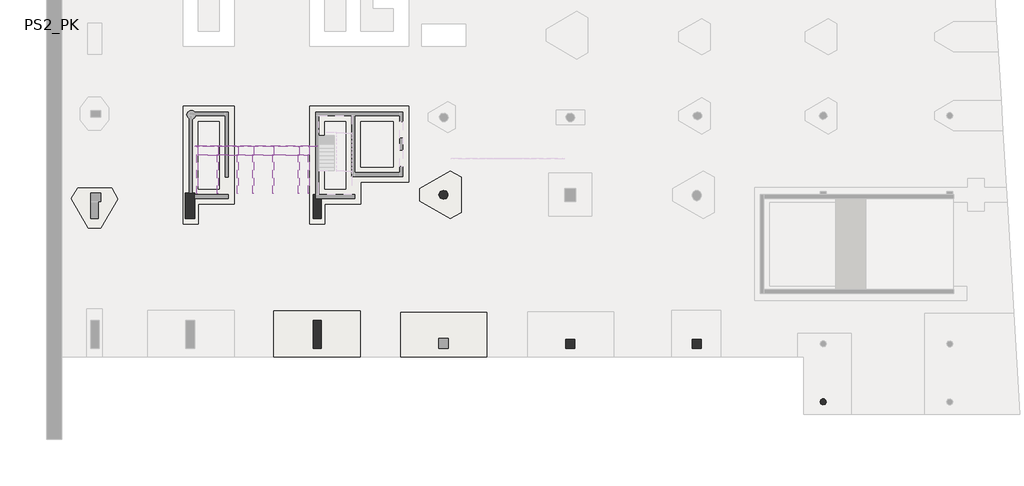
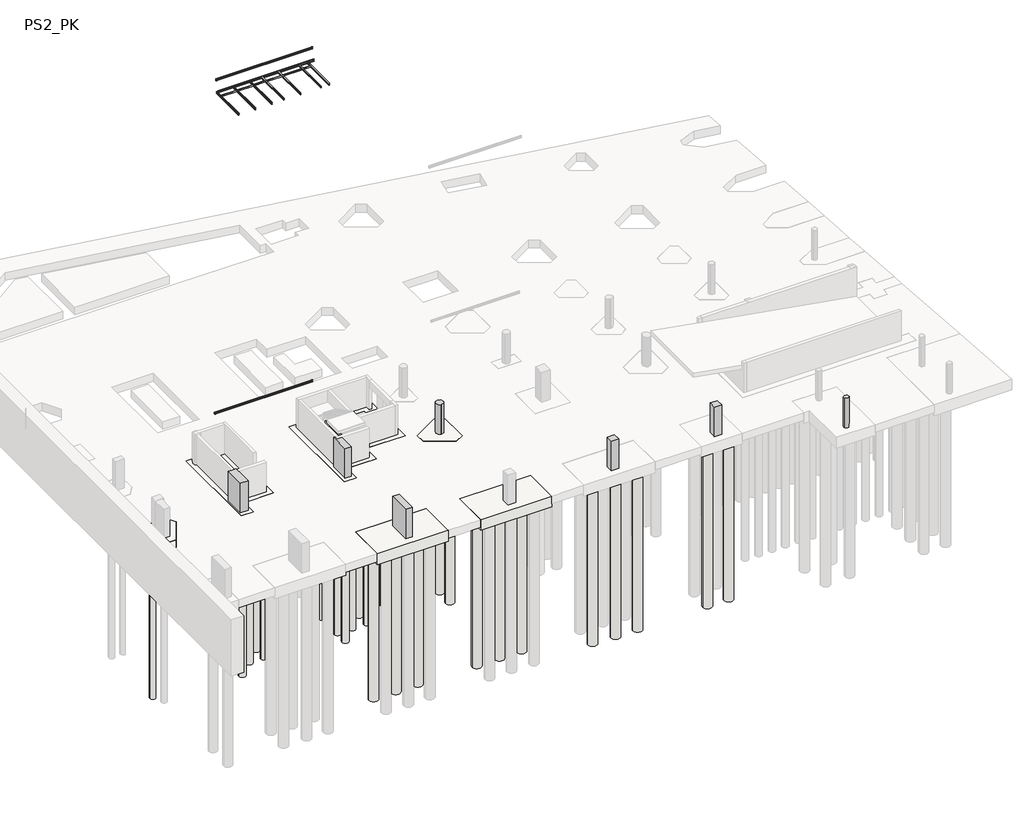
# One storey, part 3 of 10: 46 slabs, 16 beams, 7 columns.
"""IFC4 building model written with IfcOpenShell, lengths in millimetres."""

from ifc_helpers import new_model, si_unit, point, frame, frame_2d, origin, place, context, project, spatial, polyline, circle_curve, trimmed, segment, composite_curve, outline, extrude, faceted_brep, transform, mapped, element, save
from components import ub_universal_beams_ipe_160x82_b193801a, ub_universal_beams_ipe_160x82_a08825f7, upn120x55_69f0bca1, upn120x55_efc8f615, upn120x55_2e91fe93, upn120x55_dd576345, upn120x55_d7d90911, upn200x75_ea87a1d8, upn200x75_7de89c9f, upn200x75_2a7df19b, columna_seccomp_circ_columna_seccomp_circ_700x750_0b81ce58

model = new_model("IFC4")

# Units and contexts
model_context = context("Model", 3, world=origin())
ifc_project = project(units=[si_unit("LENGTHUNIT", "METRE", prefix="MILLI")], contexts=[model_context])

# Site, building, storey
site = spatial("IfcSite", under=ifc_project)
building = spatial("IfcBuilding", under=site)
storey = spatial("IfcBuildingStorey", under=building, Name="PS2_PK", Elevation=-1600.0)

# Beams
placement = place(None, origin())
ub_universal_beams_ipe_160x82_shape = ub_universal_beams_ipe_160x82_b193801a(model_context)
element("IfcBeam", 1, ObjectType="UB-Universal Beams : IPE 160x82", at=placement, inside=storey, context=model_context, shape_type="MappedRepresentation", body=[
    mapped(ub_universal_beams_ipe_160x82_shape, transform((-14190.4459331, -2917.4428253, 37780.0), x_axis=(0.0, 1.0, 0.0), y_axis=(-1.0, 0.0, 0.0), z_axis=(0.0, 0.0, 1.0))),
])
element("IfcBeam", 2, ObjectType="UB-Universal Beams : IPE 160x82", at=placement, inside=storey, context=model_context, shape_type="MappedRepresentation", body=[
    mapped(ub_universal_beams_ipe_160x82_shape, transform((-14990.4459326, -2917.4428127, 37780.0), x_axis=(0.0, 1.0, 0.0), y_axis=(-1.0, 0.0, 0.0), z_axis=(0.0, 0.0, 1.0))),
])
element("IfcBeam", 3, ObjectType="UB-Universal Beams : IPE 160x82", at=placement, inside=storey, context=model_context, shape_type="MappedRepresentation", body=[
    mapped(ub_universal_beams_ipe_160x82_shape, transform((-16990.4459316, -2917.442781, 37780.0), x_axis=(0.0, 1.0, 0.0), y_axis=(-1.0, 0.0, 0.0), z_axis=(0.0, 0.0, 1.0))),
])
element("IfcBeam", 4, ObjectType="UB-Universal Beams : IPE 160x82", at=placement, inside=storey, context=model_context, shape_type="MappedRepresentation", body=[
    mapped(ub_universal_beams_ipe_160x82_shape, transform((-18590.4459308, -2917.4427556, 37780.0), x_axis=(0.0, 1.0, 0.0), y_axis=(-1.0, 0.0, 0.0), z_axis=(0.0, 0.0, 1.0))),
])
element("IfcBeam", 5, ObjectType="UB-Universal Beams : IPE 160x82", at=placement, inside=storey, context=model_context, shape_type="MappedRepresentation", body=[
    mapped(ub_universal_beams_ipe_160x82_shape, transform((-19790.4459314, -2917.4427366, 37780.0), x_axis=(0.0, 1.0, 0.0), y_axis=(-1.0, 0.0, 0.0), z_axis=(0.0, 0.0, 1.0))),
])
element("IfcBeam", 6, ObjectType="UB-Universal Beams : IPE 160x82", at=placement, inside=storey, context=model_context, shape_type="MappedRepresentation", body=[
    mapped(ub_universal_beams_ipe_160x82_shape, transform((-21390.4459306, -2917.4427112, 37780.0), x_axis=(0.0, 1.0, 0.0), y_axis=(-1.0, 0.0, 0.0), z_axis=(0.0, 0.0, 1.0))),
])
ub_universal_beams_ipe_160x82_2_shape = ub_universal_beams_ipe_160x82_a08825f7(model_context)
element("IfcBeam", 7, ObjectType="UB-Universal Beams : IPE 160x82", at=placement, inside=storey, context=model_context, shape_type="MappedRepresentation", body=[
    mapped(ub_universal_beams_ipe_160x82_2_shape, transform((-22991.1860553, -2917.4426858, 37780.0), x_axis=(0.0, 1.0, 0.0), y_axis=(-1.0, 0.0, 0.0), z_axis=(0.0, 0.0, 1.0))),
])
upn120x55_shape = upn120x55_69f0bca1(model_context)
element("IfcBeam", 8, ObjectType="M_MC Shapes : UPN120x55", at=placement, inside=storey, context=model_context, shape_type="MappedRepresentation", body=[
    mapped(upn120x55_shape, transform((-14590.4459328, -1772.1875003, 37800.0), x_axis=(0.9999999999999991, -4.319868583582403e-08, 0.0), y_axis=(4.319868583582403e-08, 0.9999999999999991, 0.0), z_axis=(0.0, 0.0, 1.0))),
])
upn120x55_2_shape = upn120x55_efc8f615(model_context)
element("IfcBeam", 9, ObjectType="M_MC Shapes : UPN120x55", at=placement, inside=storey, context=model_context, shape_type="MappedRepresentation", body=[
    mapped(upn120x55_2_shape, transform((-15990.4459321, -1772.1874398, 37800.0), x_axis=(0.9999999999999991, -4.319868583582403e-08, 0.0), y_axis=(4.319868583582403e-08, 0.9999999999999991, 0.0), z_axis=(0.0, 0.0, 1.0))),
])
upn120x55_3_shape = upn120x55_2e91fe93(model_context)
element("IfcBeam", 10, ObjectType="M_MC Shapes : UPN120x55", at=placement, inside=storey, context=model_context, shape_type="MappedRepresentation", body=[
    mapped(upn120x55_3_shape, transform((-20590.445931, -1772.1872411, 37800.0), x_axis=(0.9999999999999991, -4.319868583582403e-08, 0.0), y_axis=(4.319868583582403e-08, 0.9999999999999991, 0.0), z_axis=(0.0, 0.0, 1.0))),
])
element("IfcBeam", 11, ObjectType="M_MC Shapes : UPN120x55", at=placement, inside=storey, context=model_context, shape_type="MappedRepresentation", body=[
    mapped(upn120x55_3_shape, transform((-17790.4459312, -1772.1873621, 37800.0), x_axis=(0.9999999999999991, -4.319868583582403e-08, 0.0), y_axis=(4.319868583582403e-08, 0.9999999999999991, 0.0), z_axis=(0.0, 0.0, 1.0))),
])
upn120x55_4_shape = upn120x55_dd576345(model_context)
element("IfcBeam", 12, ObjectType="M_MC Shapes : UPN120x55", at=placement, inside=storey, context=model_context, shape_type="MappedRepresentation", body=[
    mapped(upn120x55_4_shape, transform((-19190.4459311, -1772.1873016, 37800.0), x_axis=(0.9999999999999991, -4.319868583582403e-08, 0.0), y_axis=(4.319868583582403e-08, 0.9999999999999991, 0.0), z_axis=(0.0, 0.0, 1.0))),
])
upn120x55_5_shape = upn120x55_d7d90911(model_context)
element("IfcBeam", 13, ObjectType="M_MC Shapes : UPN120x55", at=placement, inside=storey, context=model_context, shape_type="MappedRepresentation", body=[
    mapped(upn120x55_5_shape, transform((-22165.4459321, -1772.1871731, 37800.0), x_axis=(0.9999999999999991, -4.319868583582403e-08, 0.0), y_axis=(4.319868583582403e-08, 0.9999999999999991, 0.0), z_axis=(0.0, 0.0, 1.0))),
])
upn200x75_shape = upn200x75_ea87a1d8(model_context)
element("IfcBeam", 14, ObjectType="M_MC Shapes : UPN200x75", at=placement, inside=storey, context=model_context, shape_type="MappedRepresentation", body=[
    mapped(upn200x75_shape, transform((-18278.2517898, -1021.487191, 37760.0000416), x_axis=(0.9999999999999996, -3.175673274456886e-08, 0.0), y_axis=(3.175673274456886e-08, 0.9999999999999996, 0.0), z_axis=(0.0, 0.0, 1.0))),
])
upn200x75_2_shape = upn200x75_7de89c9f(model_context)
element("IfcBeam", 15, ObjectType="M_MC Shapes : UPN200x75", at=placement, inside=storey, context=model_context, shape_type="MappedRepresentation", body=[
    mapped(upn200x75_2_shape, transform((-18340.3195815, -1021.487189, 39062.1136491), x_axis=(0.9999999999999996, -3.175673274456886e-08, 0.0), y_axis=(3.175673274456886e-08, 0.9999999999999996, 0.0), z_axis=(0.0, 0.0, 1.0))),
])
upn200x75_3_shape = upn200x75_2a7df19b(model_context)
element("IfcBeam", 16, ObjectType="M_MC Shapes : UPN200x75", at=placement, inside=storey, context=model_context, shape_type="MappedRepresentation", body=[
    mapped(upn200x75_3_shape, transform((-18340.3195822, -1021.487189, 4879.9998505), x_axis=(0.9999999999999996, -3.17567391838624e-08, 0.0), y_axis=(3.17567391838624e-08, 0.9999999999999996, 0.0), z_axis=(0.0, 0.0, 1.0))),
])

# Columns
element("IfcColumn", 17, ObjectType="Hormigón-Redondo-Pilar : Pilo_Rodo-Formigo-500", at=placement, inside=storey, context=model_context, shape_type="SweptSolid", body=[
    extrude(outline(composite_curve([segment(trimmed(circle_curve(frame_2d((26484.7068935, -21285.1556646)), 250.0), [point((26278.8019525, -21426.9412608))], [point((26690.6118345, -21143.3700685))], False, "CARTESIAN"), True, "CONTINUOUS"), segment(trimmed(circle_curve(frame_2d((26484.7068935, -21285.1556646)), 250.0), [point((26690.6118345, -21143.3700685))], [point((26278.8019525, -21426.9412608))], False, "CARTESIAN"), True, "CONTINUOUS")], self_intersect=False)), frame((0.0, 0.0, -1600.0), z_axis=(0.0, 0.0, 1.0), x_axis=(1.0, 0.0, 0.0)), (0.0, 0.0, 1.0), 3050.0),
])
columna_seccomp_circ_columna_seccomp_circ_700x750_shape = columna_seccomp_circ_columna_seccomp_circ_700x750_0b81ce58(model_context)
element("IfcColumn", 18, ObjectType="Columna_SecComp_Circ : Columna_SecComp_Circ_700x750", at=placement, inside=storey, context=model_context, shape_type="MappedRepresentation", body=[
    mapped(columna_seccomp_circ_columna_seccomp_circ_700x750_shape, transform((-3540.3183527, -4885.1170104, 0.0), x_axis=(1.0, 0.0, 0.0), y_axis=(0.0, 1.0, 0.0), z_axis=(0.0, 0.0, 1.0))),
])
element("IfcColumn", 19, ObjectType="Concrete-Rectangular-Column : Pilar_Rectangular-Formigo-650x2200", at=placement, inside=storey, context=model_context, shape_type="SweptSolid", body=[
    extrude(outline(polyline([(-13190.290494, -14835.0991464), (-13190.2905987, -17035.0991464), (-13840.2905987, -17035.0991155), (-13840.290494, -14835.0991155), (-13190.290494, -14835.0991464)])), frame((0.0, 0.0, -1600.0), z_axis=(0.0, 0.0, 1.0), x_axis=(1.0, 0.0, 0.0)), (0.0, 0.0, 1.0), 3050.0),
])
element("IfcColumn", 20, ObjectType="Concrete-Rectangular-Column : Pilar_Rectangular-Formigo-700x700", at=placement, inside=storey, context=model_context, shape_type="SweptSolid", body=[
    extrude(outline(polyline([(6834.7069067, -16335.0991761), (6834.7068734, -17035.0991761), (6134.7068734, -17035.0991428), (6134.7069067, -16335.0991428), (6834.7069067, -16335.0991761)])), frame((0.0, 0.0, -1600.0), z_axis=(0.0, 0.0, 1.0), x_axis=(1.0, 0.0, 0.0)), (0.0, 0.0, 1.0), 3050.0),
])
element("IfcColumn", 21, ObjectType="Concrete-Rectangular-Column : Pilar_Rectangular-Formigo-750x2050", at=placement, inside=storey, context=model_context, shape_type="Brep", body=[
    faceted_brep([(-23965.3207563, -6785.0911525, -1600.0), (-23965.3181641, -4735.0911525, -1600.0), (-23640.2931065, -4735.0915635, -1600.0), (-23390.2931065, -4735.0918796, -1600.0), (-23215.3181641, -4735.0921009, -1600.0), (-23215.3183538, -4885.1039382, -1600.0), (-23215.3187332, -5185.1039382, -1600.0), (-23215.3207563, -6785.0921009, -1600.0), (-23965.3207563, -6785.0911525, 1450.0), (-23965.3181641, -4735.0911525, 1450.0), (-23640.2931065, -4735.0915635, 1450.0), (-23390.2931065, -4735.0918796, 1450.0), (-23215.3181641, -4735.0921009, 1450.0), (-23215.3183538, -4885.1039382, 1450.0), (-23215.3187332, -5185.1039382, 1450.0), (-23215.3207563, -6785.0921009, 1450.0)], [[[0, 1, 2, 3, 4, 5, 6, 7]], [[8, 9, 1, 0]], [[9, 10, 11, 12, 4, 3, 2, 1]], [[12, 13, 14, 15, 7, 6, 5, 4]], [[15, 8, 0, 7]], [[8, 15, 14, 13, 12, 11, 10, 9]]]),
])
element("IfcColumn", 22, ObjectType="Concrete-Rectangular-Column : Pilar_Rectangular-Formigo-700x700", at=placement, inside=storey, context=model_context, shape_type="SweptSolid", body=[
    extrude(outline(polyline([(16834.6783199, -16335.0991763), (16834.6782866, -17035.0991763), (16134.6782866, -17035.099143), (16134.6783199, -16335.099143), (16834.6783199, -16335.0991763)])), frame((0.0, 0.0, -1600.0), z_axis=(0.0, 0.0, 1.0), x_axis=(1.0, 0.0, 0.0)), (0.0, 0.0, 1.0), 3050.0),
])
element("IfcColumn", 23, ObjectType="Concrete-Rectangular-Column : Pilar_Rectangular-Formigo-600x1900", at=placement, inside=storey, context=model_context, shape_type="SweptSolid", body=[
    extrude(outline(polyline([(-13815.2931093, -6785.0991464), (-13815.2931106, -4885.0991464), (-13640.3216429, -4885.0991463), (-13640.3216429, -5185.1039323), (-13215.2931104, -5185.1039323), (-13215.2931093, -6785.099146), (-13815.2931093, -6785.0991464)])), frame((0.0, 0.0, -1600.0), z_axis=(0.0, 0.0, 1.0), x_axis=(1.0, 0.0, 0.0)), (0.0, 0.0, 1.0), 3050.0),
])

# Slabs
element("IfcSlab", 24, ObjectType="FunCap_Concreto_1100", at=placement, inside=storey, context=model_context, shape_type="Brep", body=[
    faceted_brep([(-6290.3192274, -3885.1123435, -2700.0), (-10065.3141732, -3885.1075686, -2700.0), (-10065.3163867, -5635.107237, -2700.0), (-12915.3225908, -5635.1036314, -2700.0), (-12915.32455, -7185.1036303, -2700.0), (-14115.3245507, -7185.1021144, -2700.0), (-14115.3127876, 2114.8978864, -2700.0), (-6290.3116377, 2114.8879885, -2700.0), (-7490.3131551, 914.889507, -2700.0), (-10065.308102, 914.8927637, -2700.0), (-10065.3126554, -2685.1075693, -2700.0), (-7490.317708, -2685.1108261, -2700.0), (-7490.3153689, -835.1108259, -2700.0), (-11265.3081026, 914.894282, -2700.0), (-12915.3143061, 914.8963689, -2700.0), (-12915.3210721, -4435.1036312, -2700.0), (-11265.3148682, -4435.1057186, -2700.0), (-6290.3192274, -3885.1123435, -1600.0), (-6290.3116377, 2114.8879885, -1600.0), (-14115.3127876, 2114.8978864, -1600.0), (-14115.3245507, -7185.1021144, -1600.0), (-12915.32455, -7185.1036303, -1600.0), (-12915.3225908, -5635.1036314, -1600.0), (-10065.3163867, -5635.107237, -1600.0), (-10065.3141732, -3885.1075686, -1600.0), (-7490.3131551, 914.889507, -1600.0), (-7490.3153689, -835.1108259, -1600.0), (-7490.317708, -2685.1108261, -1600.0), (-10065.3126554, -2685.1075693, -1600.0), (-10065.308102, 914.8927637, -1600.0), (-11265.3081026, 914.894282, -1600.0), (-11265.3148682, -4435.1057186, -1600.0), (-12915.3210721, -4435.1036312, -1600.0), (-12915.3143061, 914.8963689, -1600.0), (-6290.3192274, -3885.1123435, -2400.0), (-10065.3141732, -3885.1075686, -2400.0), (-10065.3163867, -5635.107237, -2400.0), (-12915.3225908, -5635.1036314, -2400.0), (-12915.32455, -7185.1036303, -2400.0), (-14115.3245507, -7185.1021144, -2400.0), (-14115.3127876, 2114.8978864, -2400.0), (-6290.3116377, 2114.8879885, -2400.0), (-7490.3131551, 914.889507, -2400.0), (-10065.308102, 914.8927637, -2400.0), (-10065.3126554, -2685.1075693, -2400.0), (-7490.317708, -2685.1108261, -2400.0), (-11265.3081026, 914.894282, -2400.0), (-12915.3143061, 914.8963689, -2400.0), (-12915.3210721, -4435.1036312, -2400.0), (-11265.3148682, -4435.1057186, -2400.0)], [[[0, 1, 2, 3, 4, 5, 6, 7], [8, 9, 10, 11, 12], [13, 14, 15, 16]], [[17, 18, 19, 20, 21, 22, 23, 24], [25, 26, 27, 28, 29], [30, 31, 32, 33]], [[1, 0, 34, 17, 24, 35]], [[2, 1, 35, 24, 23, 36]], [[3, 2, 36, 23, 22, 37]], [[4, 3, 37, 22, 21, 38]], [[5, 4, 38, 21, 20, 39]], [[6, 5, 39, 20, 19, 40]], [[7, 6, 40, 19, 18, 41]], [[0, 7, 41, 18, 17, 34]], [[9, 8, 42, 25, 29, 43]], [[10, 9, 43, 29, 28, 44]], [[11, 10, 44, 28, 27, 45]], [[12, 11, 45, 27, 26]], [[8, 12, 26, 25, 42]], [[14, 13, 46, 30, 33, 47]], [[15, 14, 47, 33, 32, 48]], [[16, 15, 48, 32, 31, 49]], [[13, 16, 49, 31, 30, 46]]]),
])
element("IfcSlab", 25, ObjectType="FunCap_Concreto_1100", at=placement, inside=storey, context=model_context, shape_type="Brep", body=[
    faceted_brep([(-20065.3225907, -5635.0945878, -2700.0), (-22915.3225913, -5635.0909817, -2700.0), (-22915.3245514, -7185.0909829, -2700.0), (-24115.3245511, -7185.0894656, -2700.0), (-24115.3127885, 2114.9105356, -2700.0), (-20065.3127877, 2114.9054127, -2700.0), (-22915.3210721, -4435.0909815, -2700.0), (-21265.3210736, -4435.0930698, -2700.0), (-21265.3143052, 914.9069298, -2700.0), (-22915.3143051, 914.9090181, -2700.0), (-20065.3225907, -5635.0945878, -1600.0), (-20065.3127877, 2114.9054127, -1600.0), (-24115.3127885, 2114.9105356, -1600.0), (-24115.3245511, -7185.0894656, -1600.0), (-22915.3245514, -7185.0909829, -1600.0), (-22915.3225913, -5635.0909817, -1600.0), (-22915.3210721, -4435.0909815, -1600.0), (-22915.3143051, 914.9090181, -1600.0), (-21265.3143052, 914.9069298, -1600.0), (-21265.3210736, -4435.0930698, -1600.0), (-20065.3225907, -5635.0945878, -2400.0), (-22915.3225913, -5635.0909817, -2400.0), (-22915.3245514, -7185.0909829, -2400.0), (-24115.3245511, -7185.0894656, -2400.0), (-24115.3127885, 2114.9105356, -2400.0), (-20065.3127877, 2114.9054127, -2400.0), (-22915.3210721, -4435.0909815, -2400.0), (-21265.3210736, -4435.0930698, -2400.0), (-21265.3143052, 914.9069298, -2400.0), (-22915.3143051, 914.9090181, -2400.0)], [[[0, 1, 2, 3, 4, 5], [6, 7, 8, 9]], [[10, 11, 12, 13, 14, 15], [16, 17, 18, 19]], [[1, 0, 20, 10, 15, 21]], [[2, 1, 21, 15, 14, 22]], [[3, 2, 22, 14, 13, 23]], [[4, 3, 23, 13, 12, 24]], [[5, 4, 24, 12, 11, 25]], [[0, 5, 25, 11, 10, 20]], [[7, 6, 26, 16, 19, 27]], [[8, 7, 27, 19, 18, 28]], [[9, 8, 28, 18, 17, 29]], [[6, 9, 29, 17, 16, 26]]]),
])
element("IfcSlab", 26, ObjectType="FunCap_Concreto_1100", at=placement, inside=storey, context=model_context, shape_type="Brep", body=[
    faceted_brep([(-30613.5959454, -7518.4971295, -2700.0), (-31617.4416776, -7518.4958606, -2700.0), (-32954.708224, -5195.2234012, -2700.0), (-32445.1659501, -4341.0991851, -2700.0), (-29771.9049698, -4341.102566, -2700.0), (-29275.4616643, -5214.6478853, -2700.0), (-30613.5959454, -7518.4971295, -1600.0), (-29275.4616643, -5214.6478853, -1600.0), (-29771.9049698, -4341.102566, -1600.0), (-32445.1659501, -4341.0991851, -1600.0), (-32954.708224, -5195.2234012, -1600.0), (-31617.4416776, -7518.4958606, -1600.0), (-30613.5959454, -7518.4971295, -2400.0), (-31617.4416776, -7518.4958606, -2400.0), (-32954.708224, -5195.2234012, -2400.0), (-32445.1659501, -4341.0991851, -2400.0), (-29771.9049698, -4341.102566, -2400.0), (-29275.4616643, -5214.6478853, -2400.0)], [[[0, 1, 2, 3, 4, 5]], [[6, 7, 8, 9, 10, 11]], [[1, 0, 12, 6, 11, 13]], [[2, 1, 13, 11, 10, 14]], [[3, 2, 14, 10, 9, 15]], [[4, 3, 15, 9, 8, 16]], [[5, 4, 16, 8, 7, 17]], [[0, 5, 17, 7, 6, 12]]]),
])
element("IfcSlab", 27, ObjectType="FunCap_Concreto_1100", at=placement, inside=storey, context=model_context, shape_type="Brep", body=[
    faceted_brep([(-5413.3612686, -5372.6131205, -2700.0), (-5413.3600354, -4397.6131204, -2700.0), (-2988.4871337, -2997.6161874, -2700.0), (-2144.1129816, -3485.1172552, -2700.0), (-2144.1165238, -6285.117256, -2700.0), (-2988.4919086, -6772.6161877, -2700.0), (-5413.3612686, -5372.6131205, -1600.0), (-2988.4919086, -6772.6161877, -1600.0), (-2144.1165238, -6285.117256, -1600.0), (-2144.1129816, -3485.1172552, -1600.0), (-2988.4871337, -2997.6161874, -1600.0), (-5413.3600354, -4397.6131204, -1600.0), (-5413.3612686, -5372.6131205, -2400.0), (-5413.3600354, -4397.6131204, -2400.0), (-2988.4871337, -2997.6161874, -2400.0), (-2144.1129816, -3485.1172552, -2400.0), (-2144.1165238, -6285.117256, -2400.0), (-2988.4919086, -6772.6161877, -2400.0)], [[[0, 1, 2, 3, 4, 5]], [[6, 7, 8, 9, 10, 11]], [[1, 0, 12, 6, 11, 13]], [[2, 1, 13, 11, 10, 14]], [[3, 2, 14, 10, 9, 15]], [[4, 3, 15, 9, 8, 16]], [[5, 4, 16, 8, 7, 17]], [[0, 5, 17, 7, 6, 12]]]),
])
element("IfcSlab", 28, ObjectType="FunCap_Concreto_1100", at=placement, inside=storey, context=model_context, shape_type="Brep", body=[
    faceted_brep([(-65.3378924, -14176.6706788, -2700.0), (-65.3378924, -17732.9041552, -2700.0), (-6965.3333948, -17732.9041552, -2700.0), (-6965.3333948, -14176.6706788, -2700.0), (-65.3378924, -14176.6706788, -1600.0), (-6965.3333948, -14176.6706788, -1600.0), (-6965.3333948, -17732.7348879, -1600.0), (-6965.3333948, -17732.9041552, -1600.0), (-65.3378924, -17732.9041552, -1600.0), (-65.3378924, -14176.6706788, -2400.0), (-6965.3333948, -14176.6706788, -2400.0)], [[[0, 1, 2, 3]], [[4, 5, 6, 7, 8]], [[1, 0, 9, 4, 8]], [[2, 1, 8, 7]], [[3, 2, 7, 6, 5, 10]], [[0, 3, 10, 5, 4, 9]]]),
])
element("IfcSlab", 29, ObjectType="FunCap_Concreto_1100", at=placement, inside=storey, context=model_context, shape_type="Brep", body=[
    faceted_brep([(-10083.3637576, -14034.840768, -2700.0), (-10083.3637576, -17733.5286548, -2700.0), (-16983.359079, -17733.5286548, -2700.0), (-16983.359079, -14034.840768, -2700.0), (-10083.3637576, -14034.840768, -1600.0), (-16983.359079, -14034.840768, -1600.0), (-16983.359079, -17732.4891306, -1600.0), (-16983.359079, -17733.5286548, -1600.0), (-10083.3637576, -17733.5286548, -1600.0), (-10083.3637576, -17732.6583979, -1600.0), (-10083.3637576, -14034.840768, -2400.0), (-16983.359079, -14034.840768, -2400.0)], [[[0, 1, 2, 3]], [[4, 5, 6, 7, 8, 9]], [[1, 0, 10, 4, 9, 8]], [[2, 1, 8, 7]], [[3, 2, 7, 6, 5, 11]], [[0, 3, 11, 5, 4, 10]]]),
])
element("IfcSlab", 30, ObjectType="Fun_Pilote_Redondo : Fun_Pilote_Redondo_550x16000", at=placement, inside=storey, context=model_context, shape_type="SweptSolid", body=[
    extrude(outline(composite_curve([segment(trimmed(circle_curve(frame_2d((-31665.0458957, -5367.3319617)), 275.0), [point((-31940.0458957, -5367.3319617))], [point((-31390.0458957, -5367.3319617))], False, "CARTESIAN"), True, "CONTINUOUS"), segment(trimmed(circle_curve(frame_2d((-31665.0458957, -5367.3319617)), 275.0), [point((-31390.0458957, -5367.3319617))], [point((-31940.0458957, -5367.3319617))], False, "CARTESIAN"), True, "CONTINUOUS")], self_intersect=False)), frame((0.0, 0.0, -18700.0), z_axis=(0.0, 0.0, 1.0), x_axis=(1.0, 0.0, 0.0)), (0.0, 0.0, 1.0), 16000.0),
])
element("IfcSlab", 31, ObjectType="Fun_Pilote_Redondo : Fun_Pilote_Redondo_550x16000", at=placement, inside=storey, context=model_context, shape_type="SweptSolid", body=[
    extrude(outline(composite_curve([segment(trimmed(circle_curve(frame_2d((-30565.2720042, -5367.3333528)), 275.0), [point((-30840.2720042, -5367.3333528))], [point((-30290.2720042, -5367.3333528))], False, "CARTESIAN"), True, "CONTINUOUS"), segment(trimmed(circle_curve(frame_2d((-30565.2720042, -5367.3333528)), 275.0), [point((-30290.2720042, -5367.3333528))], [point((-30840.2720042, -5367.3333528))], False, "CARTESIAN"), True, "CONTINUOUS")], self_intersect=False)), frame((0.0, 0.0, -18700.0), z_axis=(0.0, 0.0, 1.0), x_axis=(1.0, 0.0, 0.0)), (0.0, 0.0, 1.0), 16000.0),
])
element("IfcSlab", 32, ObjectType="Fun_Pilote_Redondo : Fun_Pilote_Redondo_Conc_650x16000", at=placement, inside=storey, context=model_context, shape_type="SweptSolid", body=[
    extrude(outline(composite_curve([segment(trimmed(circle_curve(frame_2d((-20656.3267713, -1110.0938378)), 325.0), [point((-20981.3267713, -1110.0938378))], [point((-20331.3267713, -1110.0938378))], False, "CARTESIAN"), True, "CONTINUOUS"), segment(trimmed(circle_curve(frame_2d((-20656.3267713, -1110.0938378)), 325.0), [point((-20331.3267713, -1110.0938378))], [point((-20981.3267713, -1110.0938378))], False, "CARTESIAN"), True, "CONTINUOUS")], self_intersect=False)), frame((0.0, 0.0, -18700.0), z_axis=(0.0, 0.0, 1.0), x_axis=(1.0, 0.0, 0.0)), (0.0, 0.0, 1.0), 16000.0),
])
element("IfcSlab", 33, ObjectType="Fun_Pilote_Redondo : Fun_Pilote_Redondo_Conc_650x16000", at=placement, inside=storey, context=model_context, shape_type="SweptSolid", body=[
    extrude(outline(composite_curve([segment(trimmed(circle_curve(frame_2d((-20656.3284153, -2410.0938381)), 325.0), [point((-20981.3284153, -2410.0938381))], [point((-20331.3284153, -2410.0938381))], False, "CARTESIAN"), True, "CONTINUOUS"), segment(trimmed(circle_curve(frame_2d((-20656.3284153, -2410.0938381)), 325.0), [point((-20331.3284153, -2410.0938381))], [point((-20981.3284153, -2410.0938381))], False, "CARTESIAN"), True, "CONTINUOUS")], self_intersect=False)), frame((0.0, 0.0, -18700.0), z_axis=(0.0, 0.0, 1.0), x_axis=(1.0, 0.0, 0.0)), (0.0, 0.0, 1.0), 16000.0),
])
element("IfcSlab", 34, ObjectType="Fun_Pilote_Redondo : Fun_Pilote_Redondo_Conc_650x16000", at=placement, inside=storey, context=model_context, shape_type="SweptSolid", body=[
    extrude(outline(composite_curve([segment(trimmed(circle_curve(frame_2d((-20656.3300598, -3710.0938379)), 325.0), [point((-20981.3300598, -3710.0938379))], [point((-20331.3300598, -3710.0938379))], False, "CARTESIAN"), True, "CONTINUOUS"), segment(trimmed(circle_curve(frame_2d((-20656.3300598, -3710.0938379)), 325.0), [point((-20331.3300598, -3710.0938379))], [point((-20981.3300598, -3710.0938379))], False, "CARTESIAN"), True, "CONTINUOUS")], self_intersect=False)), frame((0.0, 0.0, -18700.0), z_axis=(0.0, 0.0, 1.0), x_axis=(1.0, 0.0, 0.0)), (0.0, 0.0, 1.0), 16000.0),
])
element("IfcSlab", 35, ObjectType="Fun_Pilote_Redondo : Fun_Pilote_Redondo_Conc_650x16000", at=placement, inside=storey, context=model_context, shape_type="SweptSolid", body=[
    extrude(outline(composite_curve([segment(trimmed(circle_curve(frame_2d((-20656.3317043, -5010.0938386)), 325.0), [point((-20981.3317043, -5010.0938386))], [point((-20331.3317043, -5010.0938386))], False, "CARTESIAN"), True, "CONTINUOUS"), segment(trimmed(circle_curve(frame_2d((-20656.3317043, -5010.0938386)), 325.0), [point((-20331.3317043, -5010.0938386))], [point((-20981.3317043, -5010.0938386))], False, "CARTESIAN"), True, "CONTINUOUS")], self_intersect=False)), frame((0.0, 0.0, -18700.0), z_axis=(0.0, 0.0, 1.0), x_axis=(1.0, 0.0, 0.0)), (0.0, 0.0, 1.0), 16000.0),
])
element("IfcSlab", 36, ObjectType="Fun_Pilote_Redondo : Fun_Pilote_Redondo_Conc_650x16000", at=placement, inside=storey, context=model_context, shape_type="SweptSolid", body=[
    extrude(outline(composite_curve([segment(trimmed(circle_curve(frame_2d((-22090.3217991, -5010.092024)), 325.0), [point((-22415.3217991, -5010.092024))], [point((-21765.3217991, -5010.092024))], False, "CARTESIAN"), True, "CONTINUOUS"), segment(trimmed(circle_curve(frame_2d((-22090.3217991, -5010.092024)), 325.0), [point((-21765.3217991, -5010.092024))], [point((-22415.3217991, -5010.092024))], False, "CARTESIAN"), True, "CONTINUOUS")], self_intersect=False)), frame((0.0, 0.0, -18700.0), z_axis=(0.0, 0.0, 1.0), x_axis=(1.0, 0.0, 0.0)), (0.0, 0.0, 1.0), 16000.0),
])
element("IfcSlab", 37, ObjectType="Fun_Pilote_Redondo : Fun_Pilote_Redondo_Conc_650x16000", at=placement, inside=storey, context=model_context, shape_type="SweptSolid", body=[
    extrude(outline(composite_curve([segment(trimmed(circle_curve(frame_2d((-23515.3217989, -5010.0902216)), 325.0), [point((-23840.3217989, -5010.0902216))], [point((-23190.3217989, -5010.0902216))], False, "CARTESIAN"), True, "CONTINUOUS"), segment(trimmed(circle_curve(frame_2d((-23515.3217989, -5010.0902216)), 325.0), [point((-23190.3217989, -5010.0902216))], [point((-23840.3217989, -5010.0902216))], False, "CARTESIAN"), True, "CONTINUOUS")], self_intersect=False)), frame((0.0, 0.0, -18700.0), z_axis=(0.0, 0.0, 1.0), x_axis=(1.0, 0.0, 0.0)), (0.0, 0.0, 1.0), 16000.0),
])
element("IfcSlab", 38, ObjectType="Fun_Pilote_Redondo : Fun_Pilote_Redondo_Conc_650x16000", at=placement, inside=storey, context=model_context, shape_type="SweptSolid", body=[
    extrude(outline(composite_curve([segment(trimmed(circle_curve(frame_2d((-23515.3234439, -6310.0902219)), 325.0), [point((-23840.3234439, -6310.0902219))], [point((-23190.3234439, -6310.0902219))], False, "CARTESIAN"), True, "CONTINUOUS"), segment(trimmed(circle_curve(frame_2d((-23515.3234439, -6310.0902219)), 325.0), [point((-23190.3234439, -6310.0902219))], [point((-23840.3234439, -6310.0902219))], False, "CARTESIAN"), True, "CONTINUOUS")], self_intersect=False)), frame((0.0, 0.0, -18700.0), z_axis=(0.0, 0.0, 1.0), x_axis=(1.0, 0.0, 0.0)), (0.0, 0.0, 1.0), 16000.0),
])
element("IfcSlab", 39, ObjectType="Fun_Pilote_Redondo : Fun_Pilote_Redondo_Conc_650x16000", at=placement, inside=storey, context=model_context, shape_type="SweptSolid", body=[
    extrude(outline(composite_curve([segment(trimmed(circle_curve(frame_2d((-23515.3201549, -3710.0902209)), 325.0), [point((-23840.3201549, -3710.0902209))], [point((-23190.3201549, -3710.0902209))], False, "CARTESIAN"), True, "CONTINUOUS"), segment(trimmed(circle_curve(frame_2d((-23515.3201549, -3710.0902209)), 325.0), [point((-23190.3201549, -3710.0902209))], [point((-23840.3201549, -3710.0902209))], False, "CARTESIAN"), True, "CONTINUOUS")], self_intersect=False)), frame((0.0, 0.0, -18700.0), z_axis=(0.0, 0.0, 1.0), x_axis=(1.0, 0.0, 0.0)), (0.0, 0.0, 1.0), 16000.0),
])
element("IfcSlab", 40, ObjectType="Fun_Pilote_Redondo : Fun_Pilote_Redondo_Conc_650x16000", at=placement, inside=storey, context=model_context, shape_type="SweptSolid", body=[
    extrude(outline(composite_curve([segment(trimmed(circle_curve(frame_2d((-23515.3185104, -2410.0902211)), 325.0), [point((-23840.3185104, -2410.0902211))], [point((-23190.3185104, -2410.0902211))], False, "CARTESIAN"), True, "CONTINUOUS"), segment(trimmed(circle_curve(frame_2d((-23515.3185104, -2410.0902211)), 325.0), [point((-23190.3185104, -2410.0902211))], [point((-23840.3185104, -2410.0902211))], False, "CARTESIAN"), True, "CONTINUOUS")], self_intersect=False)), frame((0.0, 0.0, -18700.0), z_axis=(0.0, 0.0, 1.0), x_axis=(1.0, 0.0, 0.0)), (0.0, 0.0, 1.0), 16000.0),
])
element("IfcSlab", 41, ObjectType="Fun_Pilote_Redondo : Fun_Pilote_Redondo_Conc_650x16000", at=placement, inside=storey, context=model_context, shape_type="SweptSolid", body=[
    extrude(outline(composite_curve([segment(trimmed(circle_curve(frame_2d((-23515.3168654, -1110.0902217)), 325.0), [point((-23840.3168654, -1110.0902217))], [point((-23190.3168654, -1110.0902217))], False, "CARTESIAN"), True, "CONTINUOUS"), segment(trimmed(circle_curve(frame_2d((-23515.3168654, -1110.0902217)), 325.0), [point((-23190.3168654, -1110.0902217))], [point((-23840.3168654, -1110.0902217))], False, "CARTESIAN"), True, "CONTINUOUS")], self_intersect=False)), frame((0.0, 0.0, -18700.0), z_axis=(0.0, 0.0, 1.0), x_axis=(1.0, 0.0, 0.0)), (0.0, 0.0, 1.0), 16000.0),
])
element("IfcSlab", 42, ObjectType="Fun_Pilote_Redondo : Fun_Pilote_Redondo_Conc_650x16000", at=placement, inside=storey, context=model_context, shape_type="SweptSolid", body=[
    extrude(outline(composite_curve([segment(trimmed(circle_curve(frame_2d((-6748.8884761, -3259.8898987)), 325.0), [point((-7073.8884761, -3259.8898987))], [point((-6423.8884761, -3259.8898987))], False, "CARTESIAN"), True, "CONTINUOUS"), segment(trimmed(circle_curve(frame_2d((-6748.8884761, -3259.8898987)), 325.0), [point((-6423.8884761, -3259.8898987))], [point((-7073.8884761, -3259.8898987))], False, "CARTESIAN"), True, "CONTINUOUS")], self_intersect=False)), frame((0.0, 0.0, -18700.0), z_axis=(0.0, 0.0, 1.0), x_axis=(1.0, 0.0, 0.0)), (0.0, 0.0, 1.0), 16000.0),
])
element("IfcSlab", 43, ObjectType="Fun_Pilote_Redondo : Fun_Pilote_Redondo_Conc_650x16000", at=placement, inside=storey, context=model_context, shape_type="SweptSolid", body=[
    extrude(outline(composite_curve([segment(trimmed(circle_curve(frame_2d((-8048.8884759, -3259.8882542)), 325.0), [point((-8373.8884759, -3259.8882542))], [point((-7723.8884759, -3259.8882542))], False, "CARTESIAN"), True, "CONTINUOUS"), segment(trimmed(circle_curve(frame_2d((-8048.8884759, -3259.8882542)), 325.0), [point((-7723.8884759, -3259.8882542))], [point((-8373.8884759, -3259.8882542))], False, "CARTESIAN"), True, "CONTINUOUS")], self_intersect=False)), frame((0.0, 0.0, -18700.0), z_axis=(0.0, 0.0, 1.0), x_axis=(1.0, 0.0, 0.0)), (0.0, 0.0, 1.0), 16000.0),
])
element("IfcSlab", 44, ObjectType="Fun_Pilote_Redondo : Fun_Pilote_Redondo_Conc_650x16000", at=placement, inside=storey, context=model_context, shape_type="SweptSolid", body=[
    extrude(outline(composite_curve([segment(trimmed(circle_curve(frame_2d((-8048.8868314, -1959.8882544)), 325.0), [point((-8373.8868314, -1959.8882544))], [point((-7723.8868314, -1959.8882544))], False, "CARTESIAN"), True, "CONTINUOUS"), segment(trimmed(circle_curve(frame_2d((-8048.8868314, -1959.8882544)), 325.0), [point((-7723.8868314, -1959.8882544))], [point((-8373.8868314, -1959.8882544))], False, "CARTESIAN"), True, "CONTINUOUS")], self_intersect=False)), frame((0.0, 0.0, -18700.0), z_axis=(0.0, 0.0, 1.0), x_axis=(1.0, 0.0, 0.0)), (0.0, 0.0, 1.0), 16000.0),
])
element("IfcSlab", 45, ObjectType="Fun_Pilote_Redondo : Fun_Pilote_Redondo_Conc_650x16000", at=placement, inside=storey, context=model_context, shape_type="SweptSolid", body=[
    extrude(outline(composite_curve([segment(trimmed(circle_curve(frame_2d((-9348.8884762, -3259.8866092)), 325.0), [point((-9673.8884762, -3259.8866092))], [point((-9023.8884762, -3259.8866092))], False, "CARTESIAN"), True, "CONTINUOUS"), segment(trimmed(circle_curve(frame_2d((-9348.8884762, -3259.8866092)), 325.0), [point((-9023.8884762, -3259.8866092))], [point((-9673.8884762, -3259.8866092))], False, "CARTESIAN"), True, "CONTINUOUS")], self_intersect=False)), frame((0.0, 0.0, -18700.0), z_axis=(0.0, 0.0, 1.0), x_axis=(1.0, 0.0, 0.0)), (0.0, 0.0, 1.0), 16000.0),
])
element("IfcSlab", 46, ObjectType="Fun_Pilote_Redondo : Fun_Pilote_Redondo_Conc_650x16000", at=placement, inside=storey, context=model_context, shape_type="SweptSolid", body=[
    extrude(outline(composite_curve([segment(trimmed(circle_curve(frame_2d((-10656.3267708, -1110.1064886)), 325.0), [point((-10981.3267708, -1110.1064886))], [point((-10331.3267708, -1110.1064886))], False, "CARTESIAN"), True, "CONTINUOUS"), segment(trimmed(circle_curve(frame_2d((-10656.3267708, -1110.1064886)), 325.0), [point((-10331.3267708, -1110.1064886))], [point((-10981.3267708, -1110.1064886))], False, "CARTESIAN"), True, "CONTINUOUS")], self_intersect=False)), frame((0.0, 0.0, -18700.0), z_axis=(0.0, 0.0, 1.0), x_axis=(1.0, 0.0, 0.0)), (0.0, 0.0, 1.0), 16000.0),
])
element("IfcSlab", 47, ObjectType="Fun_Pilote_Redondo : Fun_Pilote_Redondo_Conc_650x16000", at=placement, inside=storey, context=model_context, shape_type="SweptSolid", body=[
    extrude(outline(composite_curve([segment(trimmed(circle_curve(frame_2d((-10656.3284153, -2410.1064884)), 325.0), [point((-10981.3284153, -2410.1064884))], [point((-10331.3284153, -2410.1064884))], False, "CARTESIAN"), True, "CONTINUOUS"), segment(trimmed(circle_curve(frame_2d((-10656.3284153, -2410.1064884)), 325.0), [point((-10331.3284153, -2410.1064884))], [point((-10981.3284153, -2410.1064884))], False, "CARTESIAN"), True, "CONTINUOUS")], self_intersect=False)), frame((0.0, 0.0, -18700.0), z_axis=(0.0, 0.0, 1.0), x_axis=(1.0, 0.0, 0.0)), (0.0, 0.0, 1.0), 16000.0),
])
element("IfcSlab", 48, ObjectType="Fun_Pilote_Redondo : Fun_Pilote_Redondo_Conc_650x16000", at=placement, inside=storey, context=model_context, shape_type="SweptSolid", body=[
    extrude(outline(composite_curve([segment(trimmed(circle_curve(frame_2d((-10656.3300598, -3710.1064887)), 325.0), [point((-10981.3300598, -3710.1064887))], [point((-10331.3300598, -3710.1064887))], False, "CARTESIAN"), True, "CONTINUOUS"), segment(trimmed(circle_curve(frame_2d((-10656.3300598, -3710.1064887)), 325.0), [point((-10331.3300598, -3710.1064887))], [point((-10981.3300598, -3710.1064887))], False, "CARTESIAN"), True, "CONTINUOUS")], self_intersect=False)), frame((0.0, 0.0, -18700.0), z_axis=(0.0, 0.0, 1.0), x_axis=(1.0, 0.0, 0.0)), (0.0, 0.0, 1.0), 16000.0),
])
element("IfcSlab", 49, ObjectType="Fun_Pilote_Redondo : Fun_Pilote_Redondo_Conc_650x16000", at=placement, inside=storey, context=model_context, shape_type="SweptSolid", body=[
    extrude(outline(composite_curve([segment(trimmed(circle_curve(frame_2d((-10656.3317043, -5010.1064895)), 325.0), [point((-10981.3317043, -5010.1064895))], [point((-10331.3317043, -5010.1064895))], False, "CARTESIAN"), True, "CONTINUOUS"), segment(trimmed(circle_curve(frame_2d((-10656.3317043, -5010.1064895)), 325.0), [point((-10331.3317043, -5010.1064895))], [point((-10981.3317043, -5010.1064895))], False, "CARTESIAN"), True, "CONTINUOUS")], self_intersect=False)), frame((0.0, 0.0, -18700.0), z_axis=(0.0, 0.0, 1.0), x_axis=(1.0, 0.0, 0.0)), (0.0, 0.0, 1.0), 16000.0),
])
element("IfcSlab", 50, ObjectType="Fun_Pilote_Redondo : Fun_Pilote_Redondo_Conc_650x16000", at=placement, inside=storey, context=model_context, shape_type="SweptSolid", body=[
    extrude(outline(composite_curve([segment(trimmed(circle_curve(frame_2d((-12090.3217991, -5010.1046748)), 325.0), [point((-12415.3217991, -5010.1046748))], [point((-11765.3217991, -5010.1046748))], False, "CARTESIAN"), True, "CONTINUOUS"), segment(trimmed(circle_curve(frame_2d((-12090.3217991, -5010.1046748)), 325.0), [point((-11765.3217991, -5010.1046748))], [point((-12415.3217991, -5010.1046748))], False, "CARTESIAN"), True, "CONTINUOUS")], self_intersect=False)), frame((0.0, 0.0, -18700.0), z_axis=(0.0, 0.0, 1.0), x_axis=(1.0, 0.0, 0.0)), (0.0, 0.0, 1.0), 16000.0),
])
element("IfcSlab", 51, ObjectType="Fun_Pilote_Redondo : Fun_Pilote_Redondo_Conc_650x16000", at=placement, inside=storey, context=model_context, shape_type="SweptSolid", body=[
    extrude(outline(composite_curve([segment(trimmed(circle_curve(frame_2d((-13515.3217994, -5010.1028725)), 325.0), [point((-13840.3217994, -5010.1028725))], [point((-13190.3217994, -5010.1028725))], False, "CARTESIAN"), True, "CONTINUOUS"), segment(trimmed(circle_curve(frame_2d((-13515.3217994, -5010.1028725)), 325.0), [point((-13190.3217994, -5010.1028725))], [point((-13840.3217994, -5010.1028725))], False, "CARTESIAN"), True, "CONTINUOUS")], self_intersect=False)), frame((0.0, 0.0, -18700.0), z_axis=(0.0, 0.0, 1.0), x_axis=(1.0, 0.0, 0.0)), (0.0, 0.0, 1.0), 16000.0),
])
element("IfcSlab", 52, ObjectType="Fun_Pilote_Redondo : Fun_Pilote_Redondo_Conc_650x16000", at=placement, inside=storey, context=model_context, shape_type="SweptSolid", body=[
    extrude(outline(composite_curve([segment(trimmed(circle_curve(frame_2d((-13515.3234434, -6310.1028723)), 325.0), [point((-13840.3234434, -6310.1028723))], [point((-13190.3234434, -6310.1028723))], False, "CARTESIAN"), True, "CONTINUOUS"), segment(trimmed(circle_curve(frame_2d((-13515.3234434, -6310.1028723)), 325.0), [point((-13190.3234434, -6310.1028723))], [point((-13840.3234434, -6310.1028723))], False, "CARTESIAN"), True, "CONTINUOUS")], self_intersect=False)), frame((0.0, 0.0, -18700.0), z_axis=(0.0, 0.0, 1.0), x_axis=(1.0, 0.0, 0.0)), (0.0, 0.0, 1.0), 16000.0),
])
element("IfcSlab", 53, ObjectType="Fun_Pilote_Redondo : Fun_Pilote_Redondo_Conc_650x16000", at=placement, inside=storey, context=model_context, shape_type="SweptSolid", body=[
    extrude(outline(composite_curve([segment(trimmed(circle_curve(frame_2d((-13515.3201549, -3710.1028717)), 325.0), [point((-13840.3201549, -3710.1028717))], [point((-13190.3201549, -3710.1028717))], False, "CARTESIAN"), True, "CONTINUOUS"), segment(trimmed(circle_curve(frame_2d((-13515.3201549, -3710.1028717)), 325.0), [point((-13190.3201549, -3710.1028717))], [point((-13840.3201549, -3710.1028717))], False, "CARTESIAN"), True, "CONTINUOUS")], self_intersect=False)), frame((0.0, 0.0, -18700.0), z_axis=(0.0, 0.0, 1.0), x_axis=(1.0, 0.0, 0.0)), (0.0, 0.0, 1.0), 16000.0),
])
element("IfcSlab", 54, ObjectType="Fun_Pilote_Redondo : Fun_Pilote_Redondo_Conc_650x16000", at=placement, inside=storey, context=model_context, shape_type="SweptSolid", body=[
    extrude(outline(composite_curve([segment(trimmed(circle_curve(frame_2d((-13515.3185104, -2410.1028719)), 325.0), [point((-13840.3185104, -2410.1028719))], [point((-13190.3185104, -2410.1028719))], False, "CARTESIAN"), True, "CONTINUOUS"), segment(trimmed(circle_curve(frame_2d((-13515.3185104, -2410.1028719)), 325.0), [point((-13190.3185104, -2410.1028719))], [point((-13840.3185104, -2410.1028719))], False, "CARTESIAN"), True, "CONTINUOUS")], self_intersect=False)), frame((0.0, 0.0, -18700.0), z_axis=(0.0, 0.0, 1.0), x_axis=(1.0, 0.0, 0.0)), (0.0, 0.0, 1.0), 16000.0),
])
element("IfcSlab", 55, ObjectType="Fun_Pilote_Redondo : Fun_Pilote_Redondo_Conc_650x16000", at=placement, inside=storey, context=model_context, shape_type="SweptSolid", body=[
    extrude(outline(composite_curve([segment(trimmed(circle_curve(frame_2d((-13515.3168659, -1110.1028716)), 325.0), [point((-13840.3168659, -1110.1028716))], [point((-13190.3168659, -1110.1028716))], False, "CARTESIAN"), True, "CONTINUOUS"), segment(trimmed(circle_curve(frame_2d((-13515.3168659, -1110.1028716)), 325.0), [point((-13190.3168659, -1110.1028716))], [point((-13840.3168659, -1110.1028716))], False, "CARTESIAN"), True, "CONTINUOUS")], self_intersect=False)), frame((0.0, 0.0, -18700.0), z_axis=(0.0, 0.0, 1.0), x_axis=(1.0, 0.0, 0.0)), (0.0, 0.0, 1.0), 16000.0),
])
element("IfcSlab", 56, ObjectType="Fun_Pilote_Redondo : Fun_Pilote_Redondo_Conc_850x16000", at=placement, inside=storey, context=model_context, shape_type="SweptSolid", body=[
    extrude(outline(composite_curve([segment(trimmed(circle_curve(frame_2d((-4496.8170988, -4885.114281)), 425.0), [point((-4921.8170988, -4885.114281))], [point((-4071.8170988, -4885.114281))], False, "CARTESIAN"), True, "CONTINUOUS"), segment(trimmed(circle_curve(frame_2d((-4496.8170988, -4885.114281)), 425.0), [point((-4071.8170988, -4885.114281))], [point((-4921.8170988, -4885.114281))], False, "CARTESIAN"), True, "CONTINUOUS")], self_intersect=False)), frame((0.0, 0.0, -18700.0), z_axis=(0.0, 0.0, 1.0), x_axis=(1.0, 0.0, 0.0)), (0.0, 0.0, 1.0), 16000.0),
])
element("IfcSlab", 57, ObjectType="Fun_Pilote_Redondo : Fun_Pilote_Redondo_Conc_850x16000", at=placement, inside=storey, context=model_context, shape_type="SweptSolid", body=[
    extrude(outline(composite_curve([segment(trimmed(circle_curve(frame_2d((-3024.5728369, -4035.1161433)), 425.0), [point((-3449.5728369, -4035.1161433))], [point((-2599.5728369, -4035.1161433))], False, "CARTESIAN"), True, "CONTINUOUS"), segment(trimmed(circle_curve(frame_2d((-3024.5728369, -4035.1161433)), 425.0), [point((-2599.5728369, -4035.1161433))], [point((-3449.5728369, -4035.1161433))], False, "CARTESIAN"), True, "CONTINUOUS")], self_intersect=False)), frame((0.0, 0.0, -18700.0), z_axis=(0.0, 0.0, 1.0), x_axis=(1.0, 0.0, 0.0)), (0.0, 0.0, 1.0), 16000.0),
])
element("IfcSlab", 58, ObjectType="Fun_Pilote_Redondo : Fun_Pilote_Redondo_Conc_850x16000", at=placement, inside=storey, context=model_context, shape_type="SweptSolid", body=[
    extrude(outline(composite_curve([segment(trimmed(circle_curve(frame_2d((-3024.5749873, -5735.1161433)), 425.0), [point((-3449.5749873, -5735.1161433))], [point((-2599.5749873, -5735.1161433))], False, "CARTESIAN"), True, "CONTINUOUS"), segment(trimmed(circle_curve(frame_2d((-3024.5749873, -5735.1161433)), 425.0), [point((-2599.5749873, -5735.1161433))], [point((-3449.5749873, -5735.1161433))], False, "CARTESIAN"), True, "CONTINUOUS")], self_intersect=False)), frame((0.0, 0.0, -18700.0), z_axis=(0.0, 0.0, 1.0), x_axis=(1.0, 0.0, 0.0)), (0.0, 0.0, 1.0), 16000.0),
])
element("IfcSlab", 59, ObjectType="Fun_Pilote_Redondo : Fun_Pilote_Redondo_Conc_900x16000", at=placement, inside=storey, context=model_context, shape_type="SweptSolid", body=[
    extrude(outline(composite_curve([segment(trimmed(circle_curve(frame_2d((-15666.2720885, -14799.9696187)), 450.0), [point((-16116.2720885, -14799.9696187))], [point((-15216.2720885, -14799.9696187))], False, "CARTESIAN"), True, "CONTINUOUS"), segment(trimmed(circle_curve(frame_2d((-15666.2720885, -14799.9696187)), 450.0), [point((-15216.2720885, -14799.9696187))], [point((-16116.2720885, -14799.9696187))], False, "CARTESIAN"), True, "CONTINUOUS")], self_intersect=False)), frame((0.0, 0.0, -18700.0), z_axis=(0.0, 0.0, 1.0), x_axis=(1.0, 0.0, 0.0)), (0.0, 0.0, 1.0), 16000.0),
])
element("IfcSlab", 60, ObjectType="Fun_Pilote_Redondo : Fun_Pilote_Redondo_Conc_900x16000", at=placement, inside=storey, context=model_context, shape_type="SweptSolid", body=[
    extrude(outline(composite_curve([segment(trimmed(circle_curve(frame_2d((-13534.5734678, -14832.5621935)), 450.0), [point((-13984.5734678, -14832.5621935))], [point((-13084.5734678, -14832.5621935))], False, "CARTESIAN"), True, "CONTINUOUS"), segment(trimmed(circle_curve(frame_2d((-13534.5734678, -14832.5621935)), 450.0), [point((-13084.5734678, -14832.5621935))], [point((-13984.5734678, -14832.5621935))], False, "CARTESIAN"), True, "CONTINUOUS")], self_intersect=False)), frame((0.0, 0.0, -18700.0), z_axis=(0.0, 0.0, 1.0), x_axis=(1.0, 0.0, 0.0)), (0.0, 0.0, 1.0), 16000.0),
])
element("IfcSlab", 61, ObjectType="Fun_Pilote_Redondo : Fun_Pilote_Redondo_Conc_900x16000", at=placement, inside=storey, context=model_context, shape_type="SweptSolid", body=[
    extrude(outline(composite_curve([segment(trimmed(circle_curve(frame_2d((-11376.3510612, -14815.8958227)), 450.0), [point((-11826.3510612, -14815.8958227))], [point((-10926.3510612, -14815.8958227))], False, "CARTESIAN"), True, "CONTINUOUS"), segment(trimmed(circle_curve(frame_2d((-11376.3510612, -14815.8958227)), 450.0), [point((-10926.3510612, -14815.8958227))], [point((-11826.3510612, -14815.8958227))], False, "CARTESIAN"), True, "CONTINUOUS")], self_intersect=False)), frame((0.0, 0.0, -18700.0), z_axis=(0.0, 0.0, 1.0), x_axis=(1.0, 0.0, 0.0)), (0.0, 0.0, 1.0), 16000.0),
])
element("IfcSlab", 62, ObjectType="Fun_Pilote_Redondo : Fun_Pilote_Redondo_Conc_900x16000", at=placement, inside=storey, context=model_context, shape_type="SweptSolid", body=[
    extrude(outline(composite_curve([segment(trimmed(circle_curve(frame_2d((-5727.9865587, -14948.4404257)), 450.0), [point((-6177.9865587, -14948.4404257))], [point((-5277.9865587, -14948.4404257))], False, "CARTESIAN"), True, "CONTINUOUS"), segment(trimmed(circle_curve(frame_2d((-5727.9865587, -14948.4404257)), 450.0), [point((-5277.9865587, -14948.4404257))], [point((-6177.9865587, -14948.4404257))], False, "CARTESIAN"), True, "CONTINUOUS")], self_intersect=False)), frame((0.0, 0.0, -18700.0), z_axis=(0.0, 0.0, 1.0), x_axis=(1.0, 0.0, 0.0)), (0.0, 0.0, 1.0), 16000.0),
])
element("IfcSlab", 63, ObjectType="Fun_Pilote_Redondo : Fun_Pilote_Redondo_Conc_900x16000", at=placement, inside=storey, context=model_context, shape_type="SweptSolid", body=[
    extrude(outline(composite_curve([segment(trimmed(circle_curve(frame_2d((-3525.4922515, -14935.5629525)), 450.0), [point((-3975.4922515, -14935.5629525))], [point((-3075.4922515, -14935.5629525))], False, "CARTESIAN"), True, "CONTINUOUS"), segment(trimmed(circle_curve(frame_2d((-3525.4922515, -14935.5629525)), 450.0), [point((-3075.4922515, -14935.5629525))], [point((-3975.4922515, -14935.5629525))], False, "CARTESIAN"), True, "CONTINUOUS")], self_intersect=False)), frame((0.0, 0.0, -18700.0), z_axis=(0.0, 0.0, 1.0), x_axis=(1.0, 0.0, 0.0)), (0.0, 0.0, 1.0), 16000.0),
])
element("IfcSlab", 64, ObjectType="Fun_Pilote_Redondo : Fun_Pilote_Redondo_Conc_900x16000", at=placement, inside=storey, context=model_context, shape_type="SweptSolid", body=[
    extrude(outline(composite_curve([segment(trimmed(circle_curve(frame_2d((-1393.9607792, -14954.1308192)), 450.0), [point((-1843.9607792, -14954.1308192))], [point((-943.9607792, -14954.1308192))], False, "CARTESIAN"), True, "CONTINUOUS"), segment(trimmed(circle_curve(frame_2d((-1393.9607792, -14954.1308192)), 450.0), [point((-943.9607792, -14954.1308192))], [point((-1843.9607792, -14954.1308192))], False, "CARTESIAN"), True, "CONTINUOUS")], self_intersect=False)), frame((0.0, 0.0, -18700.0), z_axis=(0.0, 0.0, 1.0), x_axis=(1.0, 0.0, 0.0)), (0.0, 0.0, 1.0), 16000.0),
])
element("IfcSlab", 65, ObjectType="Fun_Pilote_Redondo : Fun_Pilote_Redondo_Conc_900x16000", at=placement, inside=storey, context=model_context, shape_type="SweptSolid", body=[
    extrude(outline(composite_curve([segment(trimmed(circle_curve(frame_2d((4324.2045793, -16990.0878913)), 450.0), [point((3874.2045793, -16990.0878913))], [point((4774.2045793, -16990.0878913))], False, "CARTESIAN"), True, "CONTINUOUS"), segment(trimmed(circle_curve(frame_2d((4324.2045793, -16990.0878913)), 450.0), [point((4774.2045793, -16990.0878913))], [point((3874.2045793, -16990.0878913))], False, "CARTESIAN"), True, "CONTINUOUS")], self_intersect=False)), frame((0.0, 0.0, -18700.0), z_axis=(0.0, 0.0, 1.0), x_axis=(1.0, 0.0, 0.0)), (0.0, 0.0, 1.0), 16000.0),
])
element("IfcSlab", 66, ObjectType="Fun_Pilote_Redondo : Fun_Pilote_Redondo_Conc_900x16000", at=placement, inside=storey, context=model_context, shape_type="SweptSolid", body=[
    extrude(outline(composite_curve([segment(trimmed(circle_curve(frame_2d((6506.3809391, -17075.4426824)), 450.0), [point((6056.3809391, -17075.4426824))], [point((6956.3809391, -17075.4426824))], False, "CARTESIAN"), True, "CONTINUOUS"), segment(trimmed(circle_curve(frame_2d((6506.3809391, -17075.4426824)), 450.0), [point((6956.3809391, -17075.4426824))], [point((6056.3809391, -17075.4426824))], False, "CARTESIAN"), True, "CONTINUOUS")], self_intersect=False)), frame((0.0, 0.0, -18700.0), z_axis=(0.0, 0.0, 1.0), x_axis=(1.0, 0.0, 0.0)), (0.0, 0.0, 1.0), 16000.0),
])
element("IfcSlab", 67, ObjectType="Fun_Pilote_Redondo : Fun_Pilote_Redondo_Conc_900x16000", at=placement, inside=storey, context=model_context, shape_type="SweptSolid", body=[
    extrude(outline(composite_curve([segment(trimmed(circle_curve(frame_2d((8650.2785255, -17081.6231591)), 450.0), [point((8200.2785255, -17081.6231591))], [point((9100.2785255, -17081.6231591))], False, "CARTESIAN"), True, "CONTINUOUS"), segment(trimmed(circle_curve(frame_2d((8650.2785255, -17081.6231591)), 450.0), [point((9100.2785255, -17081.6231591))], [point((8200.2785255, -17081.6231591))], False, "CARTESIAN"), True, "CONTINUOUS")], self_intersect=False)), frame((0.0, 0.0, -18700.0), z_axis=(0.0, 0.0, 1.0), x_axis=(1.0, 0.0, 0.0)), (0.0, 0.0, 1.0), 16000.0),
])
element("IfcSlab", 68, ObjectType="Fun_Pilote_Redondo : Fun_Pilote_Redondo_Conc_900x16000", at=placement, inside=storey, context=model_context, shape_type="SweptSolid", body=[
    extrude(outline(composite_curve([segment(trimmed(circle_curve(frame_2d((15446.3144452, -17042.7369607)), 450.0), [point((14996.3144452, -17042.7369607))], [point((15896.3144452, -17042.7369607))], False, "CARTESIAN"), True, "CONTINUOUS"), segment(trimmed(circle_curve(frame_2d((15446.3144452, -17042.7369607)), 450.0), [point((15896.3144452, -17042.7369607))], [point((14996.3144452, -17042.7369607))], False, "CARTESIAN"), True, "CONTINUOUS")], self_intersect=False)), frame((0.0, 0.0, -18700.0), z_axis=(0.0, 0.0, 1.0), x_axis=(1.0, 0.0, 0.0)), (0.0, 0.0, 1.0), 16000.0),
])
element("IfcSlab", 69, ObjectType="Fun_Pilote_Redondo : Fun_Pilote_Redondo_Conc_900x16000", at=placement, inside=storey, context=model_context, shape_type="SweptSolid", body=[
    extrude(outline(composite_curve([segment(trimmed(circle_curve(frame_2d((17493.1749969, -17063.66019)), 450.0), [point((17043.1749969, -17063.66019))], [point((17943.1749969, -17063.66019))], False, "CARTESIAN"), True, "CONTINUOUS"), segment(trimmed(circle_curve(frame_2d((17493.1749969, -17063.66019)), 450.0), [point((17943.1749969, -17063.66019))], [point((17043.1749969, -17063.66019))], False, "CARTESIAN"), True, "CONTINUOUS")], self_intersect=False)), frame((0.0, 0.0, -18700.0), z_axis=(0.0, 0.0, 1.0), x_axis=(1.0, 0.0, 0.0)), (0.0, 0.0, 1.0), 16000.0),
])

save(model, "model.ifc")
